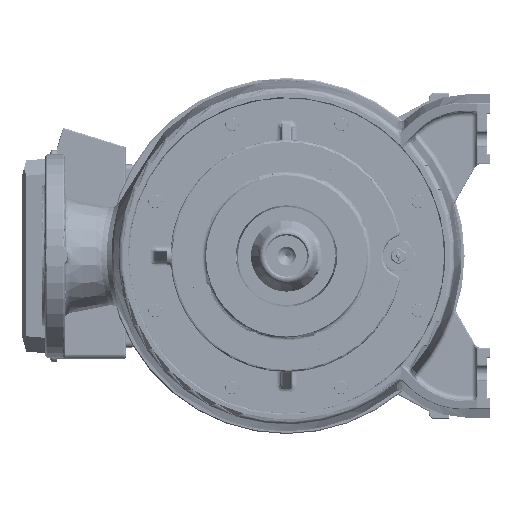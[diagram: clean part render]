
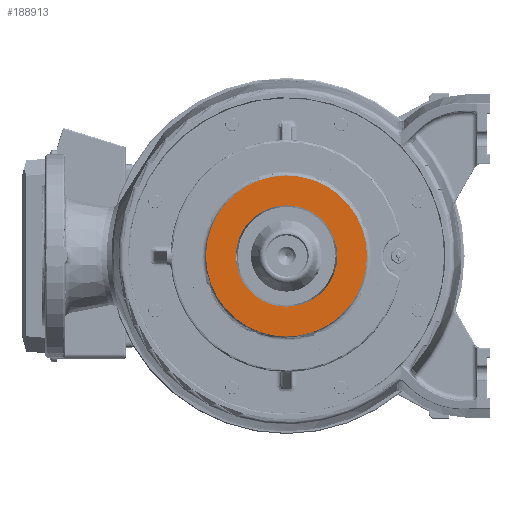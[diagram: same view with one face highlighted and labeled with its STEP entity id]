
A CAD part, left-side view. The second image highlights one B-rep face of the part: STEP entity #188913.
In plain terms, the highlighted planar face has unit normal (-1, 0, 0).
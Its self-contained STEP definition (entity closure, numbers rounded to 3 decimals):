
#137722=CARTESIAN_POINT('',(3.,0.,0.));
#137723=DIRECTION('',(1.,0.,0.));
#137724=DIRECTION('',(0.,1.,0.));
#137725=AXIS2_PLACEMENT_3D('',#137722,#137723,#137724);
#137788=CARTESIAN_POINT('',(3.,0.,0.));
#137789=DIRECTION('',(1.,0.,0.));
#137790=DIRECTION('',(0.,-1.,0.));
#137791=AXIS2_PLACEMENT_3D('',#137788,#137789,#137790);
#152702=CARTESIAN_POINT('',(3.,0.,0.));
#152703=DIRECTION('',(1.,0.,0.));
#152704=DIRECTION('',(0.,-1.,0.));
#152705=AXIS2_PLACEMENT_3D('',#152702,#152703,#152704);
#152853=CARTESIAN_POINT('',(3.,0.,0.));
#152854=DIRECTION('',(1.,0.,0.));
#152855=DIRECTION('',(0.,1.,0.));
#152856=AXIS2_PLACEMENT_3D('',#152853,#152854,#152855);
#159589=CARTESIAN_POINT('',(3.,49.869,0.));
#159590=CARTESIAN_POINT('',(3.,-49.869,0.));
#159591=VERTEX_POINT('',#159589);
#159592=VERTEX_POINT('',#159590);
#159593=CARTESIAN_POINT('',(3.,79.127,0.));
#159594=CARTESIAN_POINT('',(3.,-79.127,0.));
#159595=VERTEX_POINT('',#159593);
#159596=VERTEX_POINT('',#159594);
#188900=CARTESIAN_POINT('',(3.,0.,0.));
#188901=DIRECTION('',(1.,0.,0.));
#188902=DIRECTION('',(0.,-1.,0.));
#188903=AXIS2_PLACEMENT_3D('',#188900,#188901,#188902);
#188904=PLANE('',#188903);
#188905=ORIENTED_EDGE('',*,*,#188848,.T.);
#188906=ORIENTED_EDGE('',*,*,#188815,.T.);
#188907=EDGE_LOOP('',(#188905,#188906));
#188908=FACE_OUTER_BOUND('',#188907,.F.);
#188909=ORIENTED_EDGE('',*,*,#162272,.F.);
#188910=ORIENTED_EDGE('',*,*,#162322,.F.);
#188911=EDGE_LOOP('',(#188909,#188910));
#188912=FACE_BOUND('',#188911,.F.);
#188913=ADVANCED_FACE('',(#188908,#188912),#188904,.F.);
#137726=CIRCLE('',#137725,49.869);
#137792=CIRCLE('',#137791,49.869);
#152706=CIRCLE('',#152705,79.127);
#152857=CIRCLE('',#152856,79.127);
#162272=EDGE_CURVE('',#159591,#159592,#137726,.T.);
#162322=EDGE_CURVE('',#159592,#159591,#137792,.T.);
#188815=EDGE_CURVE('',#159596,#159595,#152706,.T.);
#188848=EDGE_CURVE('',#159595,#159596,#152857,.T.);
